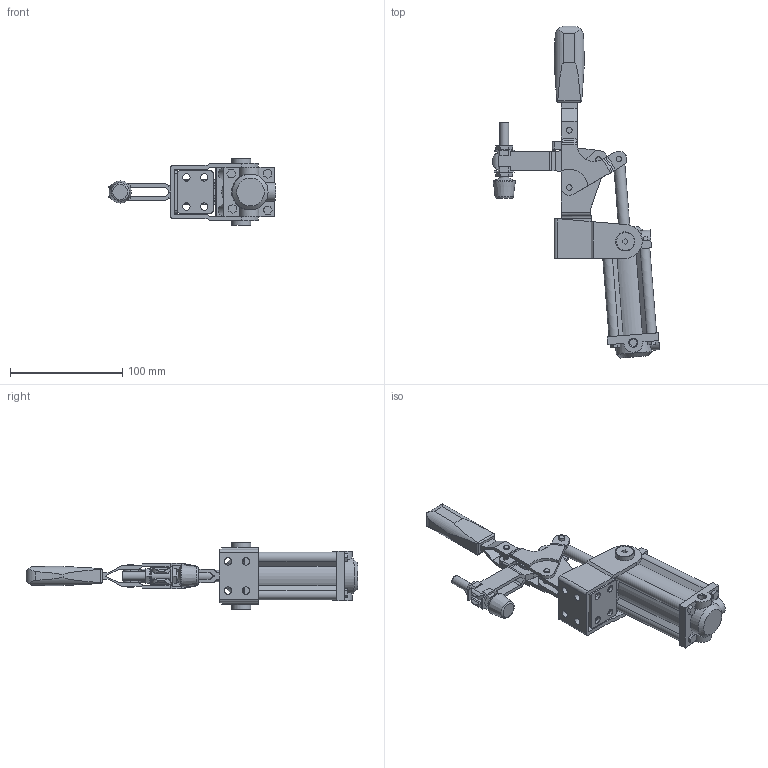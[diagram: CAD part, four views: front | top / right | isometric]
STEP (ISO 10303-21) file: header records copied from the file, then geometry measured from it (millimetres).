
FILE_DESCRIPTION( ( 'STEP AP203' ), '1' );
FILE_NAME( 'C:/Temp/Ganter_Step_05_03_2020/data/2_4/gn862_1/gn862_1_cpv3s/gn862_1_cpv3s/Toggle clamp GN 862.1-200-CPV3S (closed).stp', '2020-03-13T05:50:02', ( 'License CC BY-ND 4.0' ), ( 'CADENAS' ), ' ', 'PARTsolutions', ' ' );
FILE_SCHEMA( ( 'CONFIG_CONTROL_DESIGN' ) );
Length unit declared in the file: millimetre
Products named in the file (10): Toggle clamp GN 862.1-200-CPV3S (closed); _Toggle clamp GN 862.1-200-CPV3S-1; _Toggle clamp GN 862.1-200-CPV3S (0)-5; _Toggle clamp GN 862.1-200-CPV3S (0)-4; _Toggle clamp GN 862.1-200-CPV3S (0)-2; _Toggle clamp GN 862.1-200-CPV3S-6; _Toggle clamp GN 862.1-200-CPV3S (0)-3; _Toggle clamp GN 862.1-200-CPV3S-7; _Toggle clamp GN 862.1-200-CPV3S-8; _Clamping bolt GN 862.1-200-CPV3S
Assembly tree (10 placements, depth 2):
  Toggle clamp GN 862.1-200-CPV3S (closed)
    _Toggle clamp GN 862.1-200-CPV3S-1
    _Toggle clamp GN 862.1-200-CPV3S (0)-5
    _Toggle clamp GN 862.1-200-CPV3S (0)-4
    _Toggle clamp GN 862.1-200-CPV3S (0)-2
    _Toggle clamp GN 862.1-200-CPV3S-6
    _Toggle clamp GN 862.1-200-CPV3S (0)-3
    _Toggle clamp GN 862.1-200-CPV3S-7
    _Toggle clamp GN 862.1-200-CPV3S-8  x2
    _Clamping bolt GN 862.1-200-CPV3S
Bounding box: 149 x 296 x 59.5 mm (x, y, z)
Volume: 195815.3 mm3; surface area: 97350.4 mm2
Topology: 9 solids, 9 shells, 505 faces, 1334 edges, 879 vertices
Faces by surface type: plane 298, cylinder 137, cone 48, torus 22
Full cylindrical faces by diameter (mm): 5 x20, 6.5 x8, 6.647 x4, 8 x1, 8.566 x2, 8.8 x2, 10 x2, 15.8 x2, 17 x4, 22 x3, 32 x3
Entity records: 15318 total; most frequent: CARTESIAN_POINT 3685, DIRECTION 2301, ORIENTED_EDGE 2294, EDGE_CURVE 1147, AXIS2_PLACEMENT_3D 808, VERTEX_POINT 795, LINE 685, VECTOR 685
